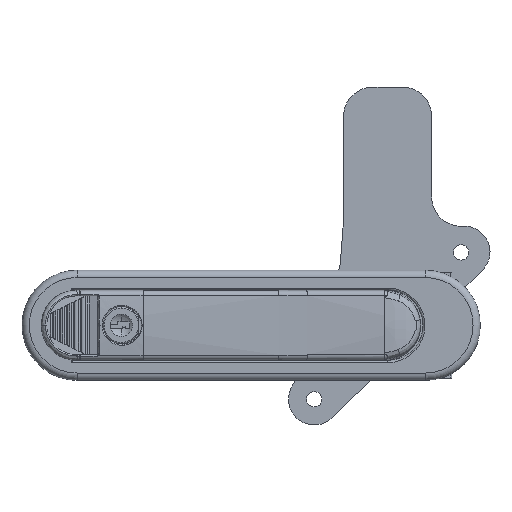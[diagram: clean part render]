
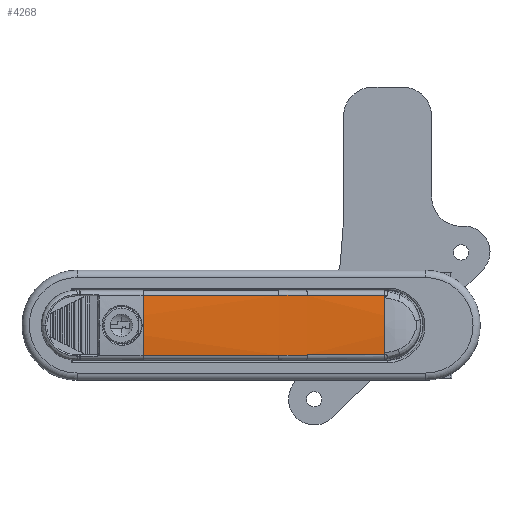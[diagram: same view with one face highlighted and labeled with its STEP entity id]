
A CAD part, front view. The second image highlights one B-rep face of the part: STEP entity #4268.
In plain terms, the highlighted cylindrical face has radius 75.424 mm (diameter 150.847 mm), a partial arc.
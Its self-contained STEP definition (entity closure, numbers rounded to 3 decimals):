
#814 = CARTESIAN_POINT ( 'NONE',  ( -2.328, -2.582, 8.154 ) ) ;
#862 = CARTESIAN_POINT ( 'NONE',  ( -46.9, -2.582, 8.154 ) ) ;
#2450 = ORIENTED_EDGE ( 'NONE', *, *, #30431, .T. ) ;
#2825 = CARTESIAN_POINT ( 'NONE',  ( 18.559, -2.599, 7.992 ) ) ;
#4268 = ADVANCED_FACE ( 'NONE', ( #19512 ), #45382, .T. ) ;
#4331 = ORIENTED_EDGE ( 'NONE', *, *, #13828, .T. ) ;
#4997 = ORIENTED_EDGE ( 'NONE', *, *, #12822, .T. ) ;
#5415 = CARTESIAN_POINT ( 'NONE',  ( -2.327, -2.587, 8.1 ) ) ;
#5634 = ORIENTED_EDGE ( 'NONE', *, *, #38961, .F. ) ;
#5764 = CARTESIAN_POINT ( 'NONE',  ( 14.054, -2.582, 8.154 ) ) ;
#5866 = ORIENTED_EDGE ( 'NONE', *, *, #32065, .T. ) ;
#6166 = CARTESIAN_POINT ( 'NONE',  ( -2.328, -2.582, 8.154 ) ) ;
#6203 = DIRECTION ( 'NONE',  ( -1., 0., 0. ) ) ;
#6595 = EDGE_LOOP ( 'NONE', ( #28455, #4331, #2450, #30404, #47796, #5866, #9772, #5634, #37944, #4997 ) ) ;
#6792 = DIRECTION ( 'NONE',  ( 0., 0., -1. ) ) ;
#7372 = CIRCLE ( 'NONE', #16078, 75.424 ) ;
#7426 = VECTOR ( 'NONE', #6203, 1000. ) ;
#7898 = CARTESIAN_POINT ( 'NONE',  ( 18.559, 72.4, 0. ) ) ;
#8133 = DIRECTION ( 'NONE',  ( 0., 0., -1. ) ) ;
#9772 = ORIENTED_EDGE ( 'NONE', *, *, #26677, .T. ) ;
#9889 = CARTESIAN_POINT ( 'NONE',  ( -2.326, -2.593, 8.046 ) ) ;
#10285 = CARTESIAN_POINT ( 'NONE',  ( -46.9, 72.4, 0. ) ) ;
#10474 = DIRECTION ( 'NONE',  ( -1., 0., 0. ) ) ;
#11177 = EDGE_CURVE ( 'NONE', #13301, #30074, #44456, .T. ) ;
#11675 = VERTEX_POINT ( 'NONE', #2825 ) ;
#11995 = DIRECTION ( 'NONE',  ( 1., 0., 0. ) ) ;
#12822 = EDGE_CURVE ( 'NONE', #41679, #13301, #30883, .T. ) ;
#13301 = VERTEX_POINT ( 'NONE', #48197 ) ;
#13677 = VERTEX_POINT ( 'NONE', #814 ) ;
#13828 = EDGE_CURVE ( 'NONE', #30074, #38838, #23904, .T. ) ;
#13947 = EDGE_CURVE ( 'NONE', #11675, #19413, #15185, .T. ) ;
#14771 = CARTESIAN_POINT ( 'NONE',  ( -2.328, -2.582, -8.154 ) ) ;
#14786 =( BOUNDED_CURVE ( )  B_SPLINE_CURVE ( 3, ( #35727, #9889, #5415, #6166 ),
 .UNSPECIFIED., .F., .F. ) 
 B_SPLINE_CURVE_WITH_KNOTS ( ( 4, 4 ),
 ( 3.248, 3.25 ),
 .UNSPECIFIED. ) 
 CURVE ( )  GEOMETRIC_REPRESENTATION_ITEM ( )  RATIONAL_B_SPLINE_CURVE ( ( 1., 1., 1., 1. ) ) 
 REPRESENTATION_ITEM ( '' )  );
#15028 = CARTESIAN_POINT ( 'NONE',  ( -2.327, -2.587, -8.1 ) ) ;
#15185 = LINE ( 'NONE', #23363, #42596 ) ;
#16078 = AXIS2_PLACEMENT_3D ( 'NONE', #10285, #33123, #6792 ) ;
#16198 = LINE ( 'NONE', #5764, #24259 ) ;
#16903 = VERTEX_POINT ( 'NONE', #862 ) ;
#19413 = VERTEX_POINT ( 'NONE', #31915 ) ;
#19512 = FACE_OUTER_BOUND ( 'NONE', #6595, .T. ) ;
#20667 = DIRECTION ( 'NONE',  ( -1., 0., 0. ) ) ;
#22448 = EDGE_CURVE ( 'NONE', #19413, #13677, #14786, .T. ) ;
#22683 = VECTOR ( 'NONE', #11995, 1000. ) ;
#23236 = CARTESIAN_POINT ( 'NONE',  ( 14.054, 72.4, 0. ) ) ;
#23363 = CARTESIAN_POINT ( 'NONE',  ( 8.108, -2.599, 7.992 ) ) ;
#23904 = LINE ( 'NONE', #28636, #33047 ) ;
#24259 = VECTOR ( 'NONE', #20667, 1000. ) ;
#25912 = AXIS2_PLACEMENT_3D ( 'NONE', #23236, #38152, #30462 ) ;
#26517 = DIRECTION ( 'NONE',  ( -1., 0., 0. ) ) ;
#26665 = CARTESIAN_POINT ( 'NONE',  ( -10.129, -2.582, -8.154 ) ) ;
#26677 = EDGE_CURVE ( 'NONE', #35018, #16903, #44517, .T. ) ;
#28455 = ORIENTED_EDGE ( 'NONE', *, *, #11177, .T. ) ;
#28636 = CARTESIAN_POINT ( 'NONE',  ( 8.108, -2.599, -7.992 ) ) ;
#28714 = CARTESIAN_POINT ( 'NONE',  ( -10.129, -2.582, 8.154 ) ) ;
#30074 = VERTEX_POINT ( 'NONE', #38748 ) ;
#30404 = ORIENTED_EDGE ( 'NONE', *, *, #13947, .T. ) ;
#30431 = EDGE_CURVE ( 'NONE', #38838, #11675, #44200, .T. ) ;
#30462 = DIRECTION ( 'NONE',  ( 0., 0., -1. ) ) ;
#30677 = CARTESIAN_POINT ( 'NONE',  ( 18.559, -2.599, -7.992 ) ) ;
#30883 = LINE ( 'NONE', #38316, #22683 ) ;
#31164 = CARTESIAN_POINT ( 'NONE',  ( -46.9, -2.582, -8.154 ) ) ;
#31915 = CARTESIAN_POINT ( 'NONE',  ( -2.324, -2.599, 7.992 ) ) ;
#32065 = EDGE_CURVE ( 'NONE', #13677, #35018, #16198, .T. ) ;
#33047 = VECTOR ( 'NONE', #47264, 1000. ) ;
#33123 = DIRECTION ( 'NONE',  ( -1., 0., 0. ) ) ;
#33818 = CARTESIAN_POINT ( 'NONE',  ( 14.054, -2.582, 8.154 ) ) ;
#35018 = VERTEX_POINT ( 'NONE', #28714 ) ;
#35727 = CARTESIAN_POINT ( 'NONE',  ( -2.324, -2.599, 7.992 ) ) ;
#36262 = LINE ( 'NONE', #40230, #7426 ) ;
#37293 = VECTOR ( 'NONE', #10474, 1000. ) ;
#37944 = ORIENTED_EDGE ( 'NONE', *, *, #47322, .F. ) ;
#38152 = DIRECTION ( 'NONE',  ( -1., 0., 0. ) ) ;
#38316 = CARTESIAN_POINT ( 'NONE',  ( 14.054, -2.582, -8.154 ) ) ;
#38748 = CARTESIAN_POINT ( 'NONE',  ( -2.324, -2.599, -7.992 ) ) ;
#38838 = VERTEX_POINT ( 'NONE', #30677 ) ;
#38961 = EDGE_CURVE ( 'NONE', #46381, #16903, #7372, .T. ) ;
#40230 = CARTESIAN_POINT ( 'NONE',  ( 14.054, -2.582, -8.154 ) ) ;
#40860 = CARTESIAN_POINT ( 'NONE',  ( -2.326, -2.593, -8.046 ) ) ;
#41679 = VERTEX_POINT ( 'NONE', #26665 ) ;
#42019 = DIRECTION ( 'NONE',  ( -1., 0., 0. ) ) ;
#42594 = AXIS2_PLACEMENT_3D ( 'NONE', #7898, #26517, #8133 ) ;
#42596 = VECTOR ( 'NONE', #42019, 1000. ) ;
#44200 = CIRCLE ( 'NONE', #42594, 75.424 ) ;
#44456 =( BOUNDED_CURVE ( )  B_SPLINE_CURVE ( 3, ( #14771, #15028, #40860, #44597 ),
 .UNSPECIFIED., .F., .F. ) 
 B_SPLINE_CURVE_WITH_KNOTS ( ( 4, 4 ),
 ( 3.033, 3.035 ),
 .UNSPECIFIED. ) 
 CURVE ( )  GEOMETRIC_REPRESENTATION_ITEM ( )  RATIONAL_B_SPLINE_CURVE ( ( 1., 1., 1., 1. ) ) 
 REPRESENTATION_ITEM ( '' )  );
#44517 = LINE ( 'NONE', #33818, #37293 ) ;
#44597 = CARTESIAN_POINT ( 'NONE',  ( -2.324, -2.599, -7.992 ) ) ;
#45382 = CYLINDRICAL_SURFACE ( 'NONE', #25912, 75.424 ) ;
#46381 = VERTEX_POINT ( 'NONE', #31164 ) ;
#47264 = DIRECTION ( 'NONE',  ( 1., 0., 0. ) ) ;
#47322 = EDGE_CURVE ( 'NONE', #41679, #46381, #36262, .T. ) ;
#47796 = ORIENTED_EDGE ( 'NONE', *, *, #22448, .T. ) ;
#48197 = CARTESIAN_POINT ( 'NONE',  ( -2.328, -2.582, -8.154 ) ) ;
